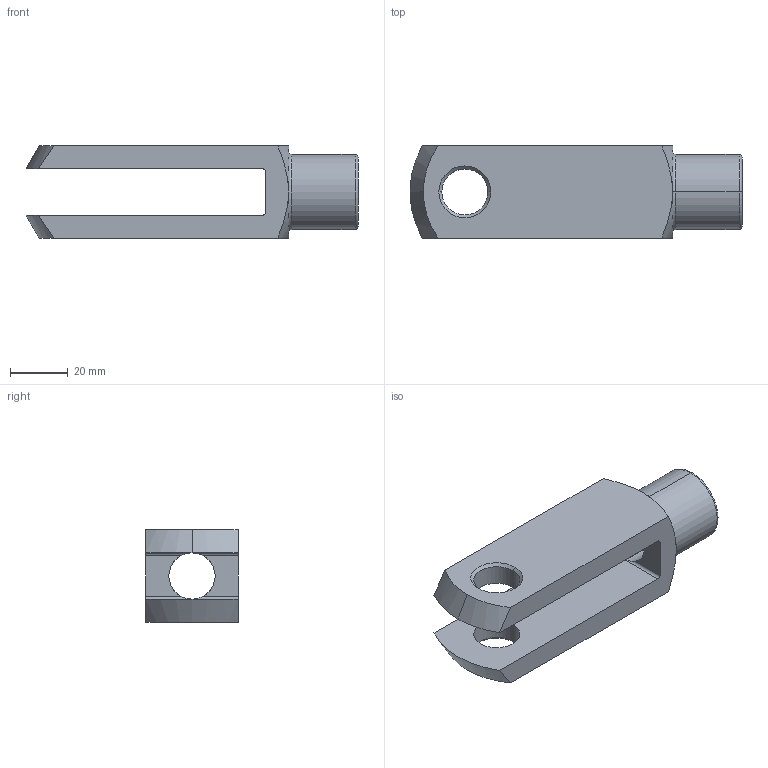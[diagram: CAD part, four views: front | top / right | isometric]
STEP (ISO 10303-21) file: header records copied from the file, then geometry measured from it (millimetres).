
FILE_DESCRIPTION (( 'STEP AP203' ), '1' );
FILE_NAME ('65636.W0166.step', '2014-01-17T13:14:38', ( 'User' ), ( '' ), 'SwSTEP 2.0', 'SolidWorks 2009', '' );
FILE_SCHEMA (( 'CONFIG_CONTROL_DESIGN' ));
Length unit declared in the file: millimetre
Products named in the file (1): 65636.W0166
Bounding box: 115 x 32 x 32 mm (x, y, z)
Volume: 51502.2 mm3; surface area: 18599 mm2
Topology: 1 solids, 1 shells, 39 faces, 93 edges, 56 vertices
Faces by surface type: cone 13, cylinder 12, plane 10, torus 4
Entity records: 1328 total; most frequent: CARTESIAN_POINT 333, DIRECTION 201, ORIENTED_EDGE 186, EDGE_CURVE 93, AXIS2_PLACEMENT_3D 84, VERTEX_POINT 56, EDGE_LOOP 45, CIRCLE 44
